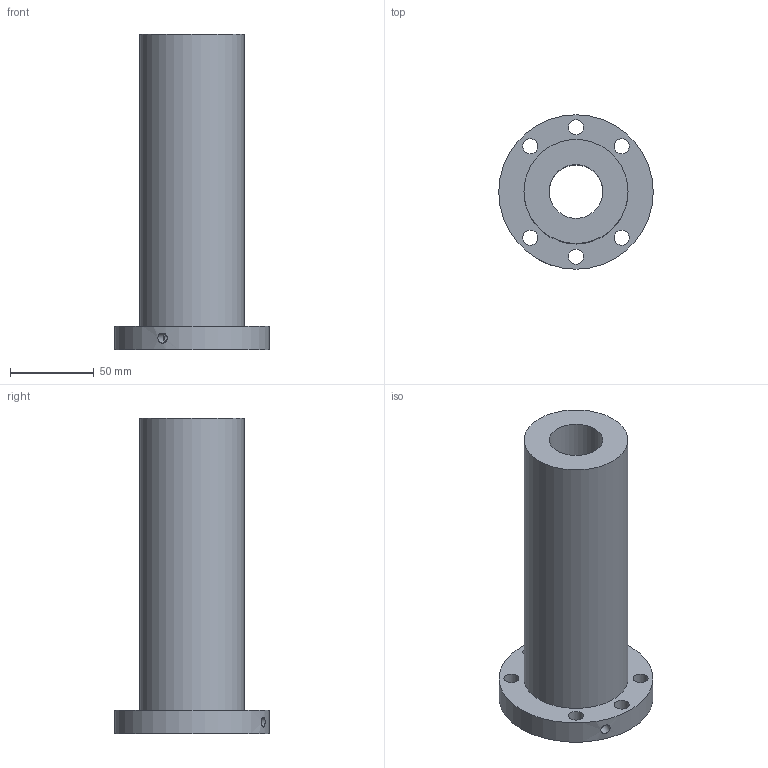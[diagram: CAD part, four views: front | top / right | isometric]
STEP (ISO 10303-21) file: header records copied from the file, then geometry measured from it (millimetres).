
FILE_DESCRIPTION(/* description */ (''),/* implementation_level */ '2;1');
FILE_NAME(/* name */ '32-16K4_635',/* time_stamp */ '2007-10-15T12:54:00+08:00',/* author */ (''),/* organization */ (''),/* preprocessor_version */ 'ST-DEVELOPER v11',/* originating_system */ 'UGS - NX 5.0',/* authorisation */ '');
FILE_SCHEMA (('CONFIG_CONTROL_DESIGN'));
Length unit declared in the file: millimetre
Products named in the file (1): 32-16K4_635
Bounding box: 92 x 92 x 188 mm (x, y, z)
Volume: 461340.3 mm3; surface area: 70538 mm2
Topology: 1 solids, 1 shells, 15 faces, 34 edges, 23 vertices
Faces by surface type: cylinder 11, plane 4
Full cylindrical faces by diameter (mm): 4 x1, 6 x1, 9 x6, 32 x1, 62 x1, 92 x1
Entity records: 600 total; most frequent: CARTESIAN_POINT 174, DIRECTION 72, FACE_BOUND 44, EDGE_LOOP 44, ORIENTED_EDGE 44, AXIS2_PLACEMENT_3D 36, VERTEX_POINT 22, EDGE_CURVE 22
